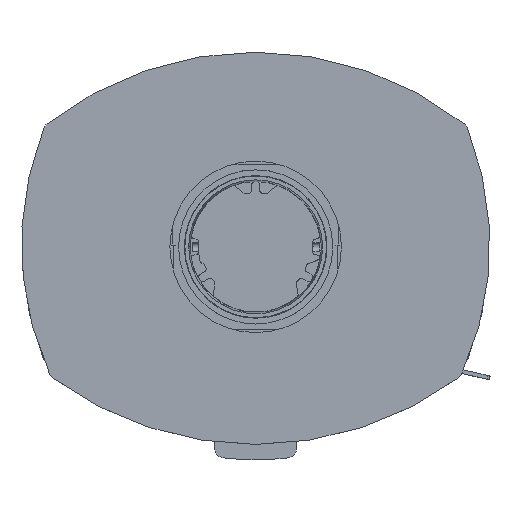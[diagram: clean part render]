
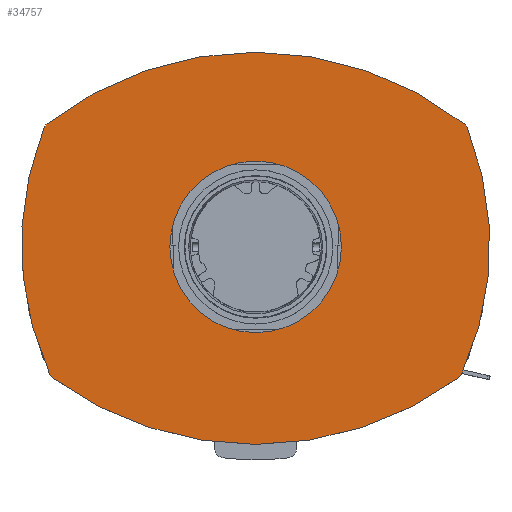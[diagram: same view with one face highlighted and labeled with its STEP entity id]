
A CAD part, top view. The second image highlights one B-rep face of the part: STEP entity #34757.
In plain terms, the highlighted planar face has unit normal (0, 0, 1).
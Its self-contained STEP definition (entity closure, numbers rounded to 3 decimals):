
#1226=FACE_BOUND('',#4725,.T.);
#2894=FACE_OUTER_BOUND('',#4724,.T.);
#4724=EDGE_LOOP('',(#30312,#30313,#30314,#30315,#30316,#30317,#30318,#30319));
#4725=EDGE_LOOP('',(#30320));
#6012=CIRCLE('',#37735,89.);
#6015=CIRCLE('',#37739,10.);
#6016=CIRCLE('',#37741,355.);
#6017=CIRCLE('',#37742,10.);
#6018=CIRCLE('',#37743,323.);
#6019=CIRCLE('',#37744,10.);
#6020=CIRCLE('',#37745,352.);
#6021=CIRCLE('',#37746,10.);
#6022=CIRCLE('',#37747,323.);
#15766=VERTEX_POINT('',#65807);
#15770=VERTEX_POINT('',#65816);
#15771=VERTEX_POINT('',#65818);
#15772=VERTEX_POINT('',#65822);
#15773=VERTEX_POINT('',#65824);
#15774=VERTEX_POINT('',#65826);
#15775=VERTEX_POINT('',#65828);
#15776=VERTEX_POINT('',#65830);
#15777=VERTEX_POINT('',#65832);
#20615=EDGE_CURVE('',#15766,#15766,#6012,.T.);
#20620=EDGE_CURVE('',#15770,#15771,#6015,.T.);
#20622=EDGE_CURVE('',#15772,#15770,#6016,.T.);
#20623=EDGE_CURVE('',#15773,#15772,#6017,.T.);
#20624=EDGE_CURVE('',#15774,#15773,#6018,.T.);
#20625=EDGE_CURVE('',#15775,#15774,#6019,.T.);
#20626=EDGE_CURVE('',#15776,#15775,#6020,.T.);
#20627=EDGE_CURVE('',#15777,#15776,#6021,.T.);
#20628=EDGE_CURVE('',#15771,#15777,#6022,.T.);
#30312=ORIENTED_EDGE('',*,*,#20620,.F.);
#30313=ORIENTED_EDGE('',*,*,#20622,.F.);
#30314=ORIENTED_EDGE('',*,*,#20623,.F.);
#30315=ORIENTED_EDGE('',*,*,#20624,.F.);
#30316=ORIENTED_EDGE('',*,*,#20625,.F.);
#30317=ORIENTED_EDGE('',*,*,#20626,.F.);
#30318=ORIENTED_EDGE('',*,*,#20627,.F.);
#30319=ORIENTED_EDGE('',*,*,#20628,.F.);
#30320=ORIENTED_EDGE('',*,*,#20615,.T.);
#31371=PLANE('',#37740);
#34757=ADVANCED_FACE('',(#2894,#1226),#31371,.F.);
#37735=AXIS2_PLACEMENT_3D('',#65808,#46772,#46773);
#37739=AXIS2_PLACEMENT_3D('',#65819,#46782,#46783);
#37740=AXIS2_PLACEMENT_3D('',#65821,#46785,#46786);
#37741=AXIS2_PLACEMENT_3D('',#65823,#46787,#46788);
#37742=AXIS2_PLACEMENT_3D('',#65825,#46789,#46790);
#37743=AXIS2_PLACEMENT_3D('',#65827,#46791,#46792);
#37744=AXIS2_PLACEMENT_3D('',#65829,#46793,#46794);
#37745=AXIS2_PLACEMENT_3D('',#65831,#46795,#46796);
#37746=AXIS2_PLACEMENT_3D('',#65833,#46797,#46798);
#37747=AXIS2_PLACEMENT_3D('',#65834,#46799,#46800);
#46772=DIRECTION('center_axis',(0.,0.,
-1.));
#46773=DIRECTION('ref_axis',(1.,0.,0.));
#46782=DIRECTION('center_axis',(0.,0.,
-1.));
#46783=DIRECTION('ref_axis',(-0.776,-0.631,0.));
#46785=DIRECTION('center_axis',(0.,0.,
-1.));
#46786=DIRECTION('ref_axis',(1.,0.,0.));
#46787=DIRECTION('center_axis',(0.,0.,
-1.));
#46788=DIRECTION('ref_axis',(0.599,-0.801,0.));
#46789=DIRECTION('center_axis',(0.,0.,
-1.));
#46790=DIRECTION('ref_axis',(0.776,-0.631,0.));
#46791=DIRECTION('center_axis',(0.,0.,
-1.));
#46792=DIRECTION('ref_axis',(0.924,0.382,0.));
#46793=DIRECTION('center_axis',(0.,0.,
-1.));
#46794=DIRECTION('ref_axis',(0.798,0.602,0.));
#46795=DIRECTION('center_axis',(0.,0.,
-1.));
#46796=DIRECTION('ref_axis',(-0.621,0.784,0.));
#46797=DIRECTION('center_axis',(0.,0.,
-1.));
#46798=DIRECTION('ref_axis',(-0.798,0.602,0.));
#46799=DIRECTION('center_axis',(0.,0.,
-1.));
#46800=DIRECTION('ref_axis',(-0.906,-0.424,0.));
#65807=CARTESIAN_POINT('',(-89.,-150.,354.));
#65808=CARTESIAN_POINT('Origin',(0.,-150.,354.));
#65816=CARTESIAN_POINT('',(-210.525,-285.84,354.));
#65818=CARTESIAN_POINT('',(-213.687,-281.95,354.));
#65819=CARTESIAN_POINT('Origin',(-204.595,-277.788,354.));
#65821=CARTESIAN_POINT('Origin',(0.,-151.453,
354.));
#65822=CARTESIAN_POINT('',(210.525,-285.84,354.));
#65823=CARTESIAN_POINT('Origin',(0.,0.,
354.));
#65824=CARTESIAN_POINT('',(213.687,-281.95,354.));
#65825=CARTESIAN_POINT('Origin',(204.595,-277.788,354.));
#65826=CARTESIAN_POINT('',(219.469,-26.473,354.));
#65827=CARTESIAN_POINT('Origin',(-80.,-147.5,354.));
#65828=CARTESIAN_POINT('',(216.343,-22.332,354.));
#65829=CARTESIAN_POINT('Origin',(210.197,-30.22,354.));
#65830=CARTESIAN_POINT('',(-216.343,-22.332,354.));
#65831=CARTESIAN_POINT('Origin',(0.,-300.,354.));
#65832=CARTESIAN_POINT('',(-219.469,-26.473,354.));
#65833=CARTESIAN_POINT('Origin',(-210.197,-30.22,354.));
#65834=CARTESIAN_POINT('Origin',(80.,-147.5,354.));
